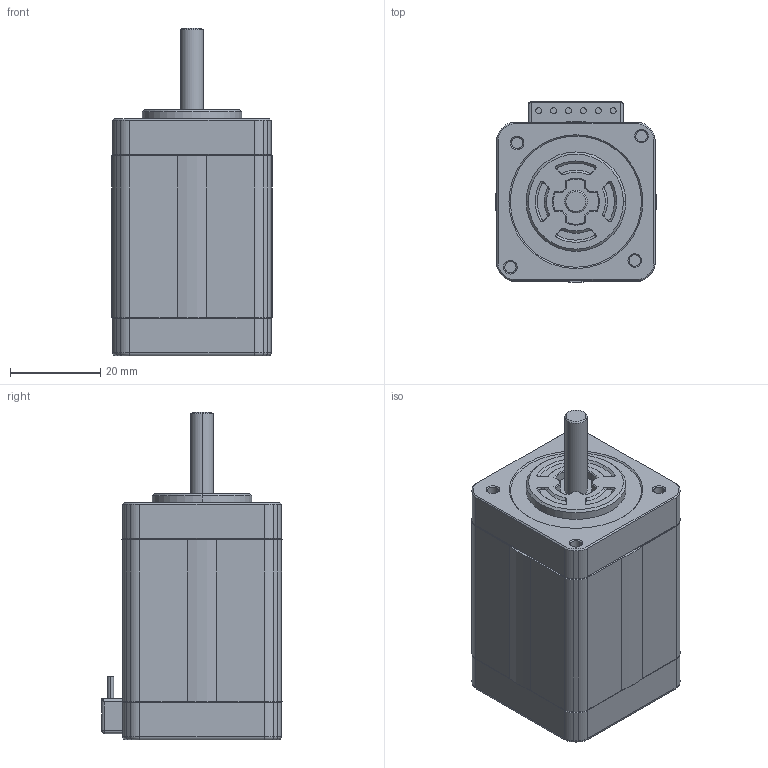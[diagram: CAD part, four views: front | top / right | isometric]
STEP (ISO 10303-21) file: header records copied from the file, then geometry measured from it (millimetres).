
FILE_DESCRIPTION (( 'STEP AP203' ), '1' );
FILE_NAME ('SH3552-12U40.STEP', '2012-04-18T01:42:44', ( 'sanyodenki-admin' ), ( '' ), 'SwSTEP 2.0', 'SolidWorks 2010', '' );
FILE_SCHEMA (( 'CONFIG_CONTROL_DESIGN' ));
Length unit declared in the file: millimetre
Products named in the file (1): SH3552-12U40
Bounding box: 35.57 x 39.97 x 72.4 mm (x, y, z)
Volume: 65018.8 mm3; surface area: 10701.4 mm2
Topology: 1 solids, 1 shells, 365 faces, 874 edges, 531 vertices
Faces by surface type: plane 120, cone 102, cylinder 95, bspline 34, torus 12, sphere 2
Entity records: 11359 total; most frequent: CARTESIAN_POINT 3071, ORIENTED_EDGE 1740, DIRECTION 1698, EDGE_CURVE 870, AXIS2_PLACEMENT_3D 670, VERTEX_POINT 531, EDGE_LOOP 389, ADVANCED_FACE 365
